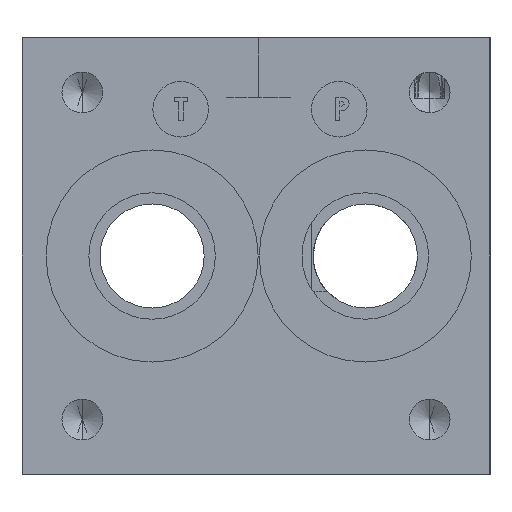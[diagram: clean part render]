
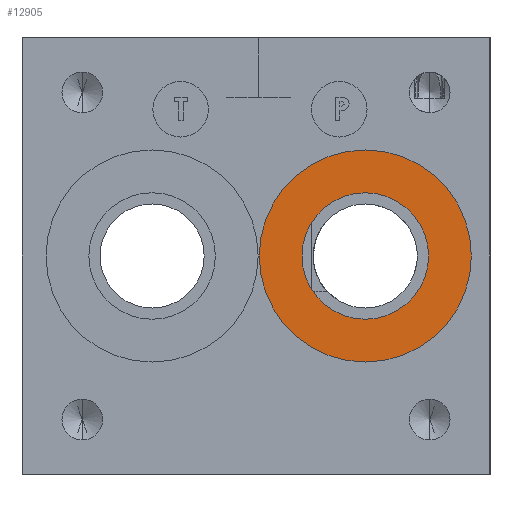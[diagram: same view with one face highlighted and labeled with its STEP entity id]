
A CAD part, left-side view. The second image highlights one B-rep face of the part: STEP entity #12905.
In plain terms, the highlighted planar face has unit normal (-1, 0, 0).
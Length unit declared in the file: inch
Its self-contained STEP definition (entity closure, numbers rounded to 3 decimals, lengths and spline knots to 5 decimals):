
#668 = VERTEX_POINT ( 'NONE', #16041 ) ;
#1332 = DIRECTION ( 'NONE',  ( 0., 0., -1. ) ) ;
#1723 = CIRCLE ( 'NONE', #25314, 0.6684 ) ;
#1982 = DIRECTION ( 'NONE',  ( -1., 0., 0. ) ) ;
#5813 = AXIS2_PLACEMENT_3D ( 'NONE', #10833, #20553, #1332 ) ;
#6427 = EDGE_LOOP ( 'NONE', ( #6907, #13964 ) ) ;
#6900 = CARTESIAN_POINT ( 'NONE',  ( 0.031, 0.786, 1.77385 ) ) ;
#6907 = ORIENTED_EDGE ( 'NONE', *, *, #37917, .T. ) ;
#8980 = EDGE_LOOP ( 'NONE', ( #26329, #24859 ) ) ;
#8986 = CIRCLE ( 'NONE', #17672, 0.39885 ) ;
#10833 = CARTESIAN_POINT ( 'NONE',  ( 0.031, 0.786, 1.375 ) ) ;
#12887 = DIRECTION ( 'NONE',  ( -1., 0., 0. ) ) ;
#12905 = ADVANCED_FACE ( 'NONE', ( #40571, #24473 ), #17376, .F. ) ;
#13653 = CARTESIAN_POINT ( 'NONE',  ( 0.031, 0.786, 1.375 ) ) ;
#13964 = ORIENTED_EDGE ( 'NONE', *, *, #16305, .T. ) ;
#14262 = EDGE_CURVE ( 'NONE', #22071, #34707, #8986, .T. ) ;
#14278 = AXIS2_PLACEMENT_3D ( 'NONE', #21196, #1982, #24350 ) ;
#15530 = AXIS2_PLACEMENT_3D ( 'NONE', #15714, #37638, #18910 ) ;
#15714 = CARTESIAN_POINT ( 'NONE',  ( 0.031, 0.786, 1.375 ) ) ;
#16041 = CARTESIAN_POINT ( 'NONE',  ( 0.031, 0.786, 0.7066 ) ) ;
#16305 = EDGE_CURVE ( 'NONE', #668, #30679, #31088, .T. ) ;
#16836 = DIRECTION ( 'NONE',  ( 0., 0., 1. ) ) ;
#17376 = PLANE ( 'NONE',  #5813 ) ;
#17672 = AXIS2_PLACEMENT_3D ( 'NONE', #13653, #35572, #16836 ) ;
#18910 = DIRECTION ( 'NONE',  ( 0., 0., 1. ) ) ;
#20553 = DIRECTION ( 'NONE',  ( 1., 0., 0. ) ) ;
#20585 = CARTESIAN_POINT ( 'NONE',  ( 0.031, 0.786, 2.0434 ) ) ;
#21196 = CARTESIAN_POINT ( 'NONE',  ( 0.031, 0.786, 1.375 ) ) ;
#22071 = VERTEX_POINT ( 'NONE', #37249 ) ;
#24350 = DIRECTION ( 'NONE',  ( 0., 0., 1. ) ) ;
#24473 = FACE_OUTER_BOUND ( 'NONE', #6427, .T. ) ;
#24859 = ORIENTED_EDGE ( 'NONE', *, *, #14262, .F. ) ;
#25314 = AXIS2_PLACEMENT_3D ( 'NONE', #31730, #12887, #34848 ) ;
#26329 = ORIENTED_EDGE ( 'NONE', *, *, #37617, .F. ) ;
#30679 = VERTEX_POINT ( 'NONE', #20585 ) ;
#31088 = CIRCLE ( 'NONE', #14278, 0.6684 ) ;
#31593 = CIRCLE ( 'NONE', #15530, 0.39885 ) ;
#31730 = CARTESIAN_POINT ( 'NONE',  ( 0.031, 0.786, 1.375 ) ) ;
#34707 = VERTEX_POINT ( 'NONE', #6900 ) ;
#34848 = DIRECTION ( 'NONE',  ( 0., 0., 1. ) ) ;
#35572 = DIRECTION ( 'NONE',  ( -1., 0., 0. ) ) ;
#37249 = CARTESIAN_POINT ( 'NONE',  ( 0.031, 0.786, 0.97615 ) ) ;
#37617 = EDGE_CURVE ( 'NONE', #34707, #22071, #31593, .T. ) ;
#37638 = DIRECTION ( 'NONE',  ( -1., 0., 0. ) ) ;
#37917 = EDGE_CURVE ( 'NONE', #30679, #668, #1723, .T. ) ;
#40571 = FACE_BOUND ( 'NONE', #8980, .T. ) ;
